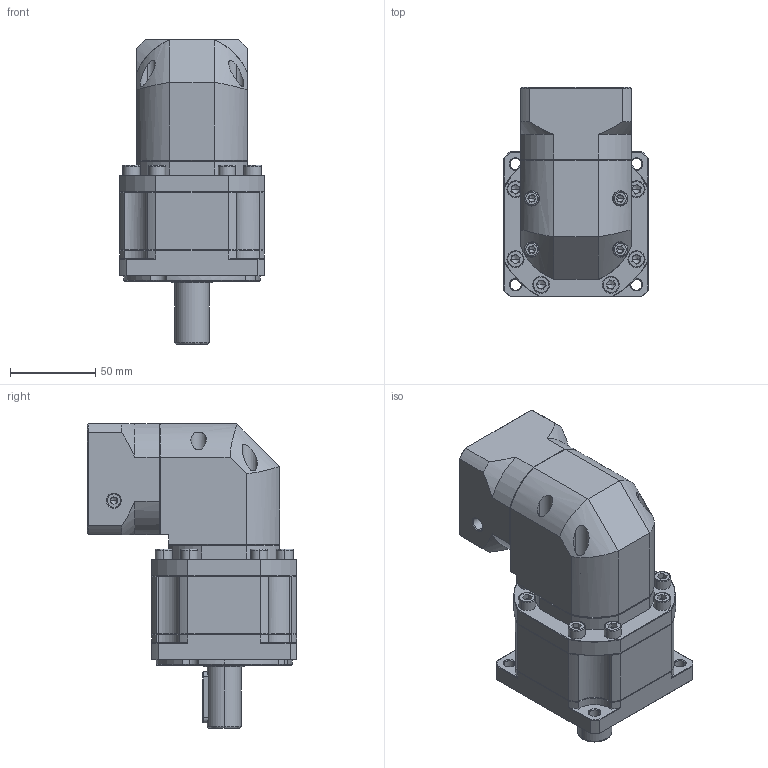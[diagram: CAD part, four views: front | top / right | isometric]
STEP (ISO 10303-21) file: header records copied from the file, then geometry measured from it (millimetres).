
FILE_DESCRIPTION (( 'STEP AP214' ), '1' );
FILE_NAME ('ZBR090-D20-L2-P2-11-60-75-M5.step', '2023-08-19T03:54:44', ( '' ), ( '' ), 'SwSTEP 2.0', 'SolidWorks 2016', '' );
FILE_SCHEMA (( 'AUTOMOTIVE_DESIGN' ));
Length unit declared in the file: millimetre
Products named in the file (1): ZBR090-D20-L2-P2-11-60-75-M5
Bounding box: 85 x 122.7 x 178.5 mm (x, y, z)
Volume: 814862.5 mm3; surface area: 100826.3 mm2
Topology: 5 solids, 5 shells, 2438 faces, 6456 edges, 4120 vertices
Faces by surface type: plane 1178, cylinder 445, bspline 438, cone 369, torus 8
Entity records: 129919 total; most frequent: CARTESIAN_POINT 46096, ORIENTED_EDGE 12820, DIRECTION 10272, EDGE_CURVE 6410, VERTEX_POINT 4120, LINE 4034, VECTOR 4034, AXIS2_PLACEMENT_3D 3119
